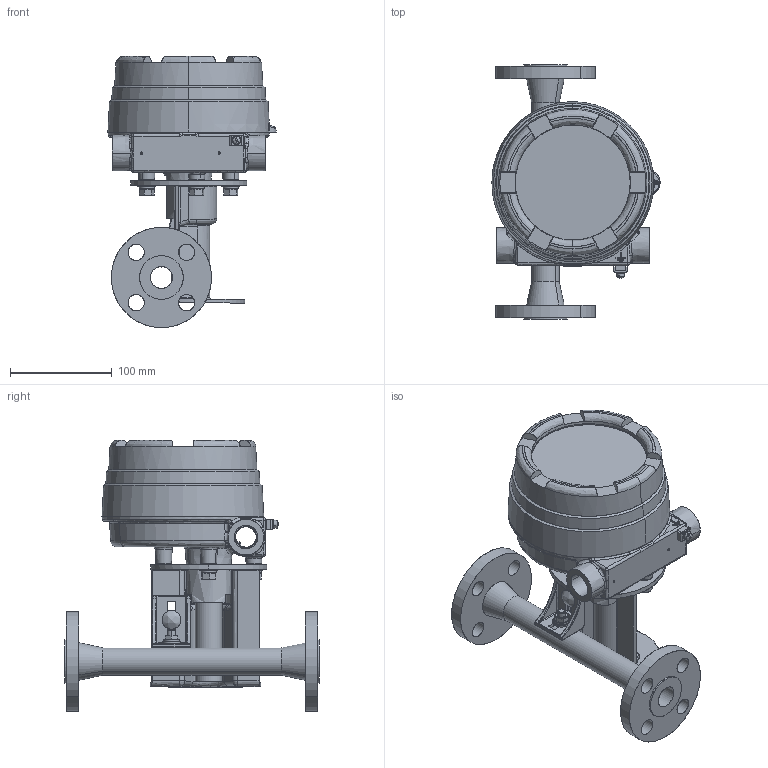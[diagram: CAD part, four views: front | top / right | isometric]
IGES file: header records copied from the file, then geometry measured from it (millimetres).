
Start section: SolidWorks IGES file using analytic representation for surfaces
Global section: file name: C:\Users\jodonnell\OneDrive - Illinois Tool Works, Inc\Desktop\3809G-B-05-F-3-D-0.IGS; native system: SolidWorks 2023; preprocessor: SolidWorks 2023; author: JODonnell; date: 241205.145457; units: inch
Bounding box: 165.1 x 250 x 266.24 mm (x, y, z)
Surface area: 402471.4 mm2 (no closed solid volume)
Topology: 0 solids, 0 shells, 1159 faces, 18666 edges, 18600 vertices
Faces by surface type: revolution 602, bspline 557
